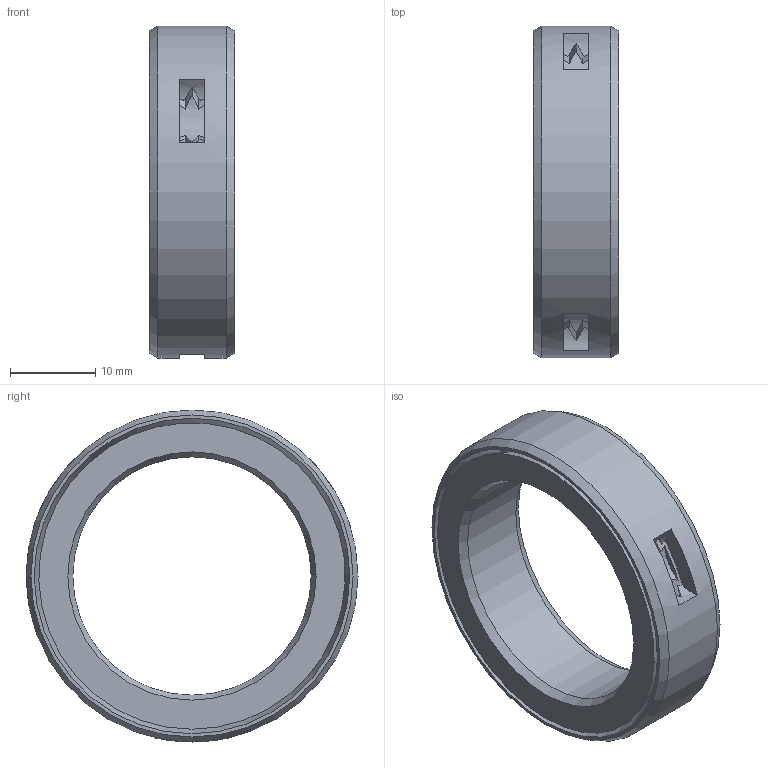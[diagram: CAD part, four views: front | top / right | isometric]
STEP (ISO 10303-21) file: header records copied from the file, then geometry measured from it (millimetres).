
FILE_DESCRIPTION(/* description */ (''),/* implementation_level */ '2;1');
FILE_NAME(/* name */ '301351 M 28x39x10.stp',/* time_stamp */ '2016-12-15T11:20:15+01:00',/* author */ (''),/* organization */ (''),/* preprocessor_version */ 'ST-DEVELOPER v15',/* originating_system */ 'SIEMENS PLM Software NX 8.5',/* authorisation */ '');
FILE_SCHEMA (('CONFIG_CONTROL_DESIGN'));
Length unit declared in the file: millimetre
Products named in the file (1): ATE0000124_01
Bounding box: 10 x 39 x 39 mm (x, y, z)
Volume: 4861.6 mm3; surface area: 5524.5 mm2
Topology: 2 solids, 2 shells, 49 faces, 143 edges, 94 vertices
Faces by surface type: cone 22, plane 16, cylinder 11
Full cylindrical faces by diameter (mm): 28 x1, 39 x1
Entity records: 1626 total; most frequent: CARTESIAN_POINT 396, ORIENTED_EDGE 240, DIRECTION 234, EDGE_CURVE 120, AXIS2_PLACEMENT_3D 114, VERTEX_POINT 84, CIRCLE 66, EDGE_LOOP 64
